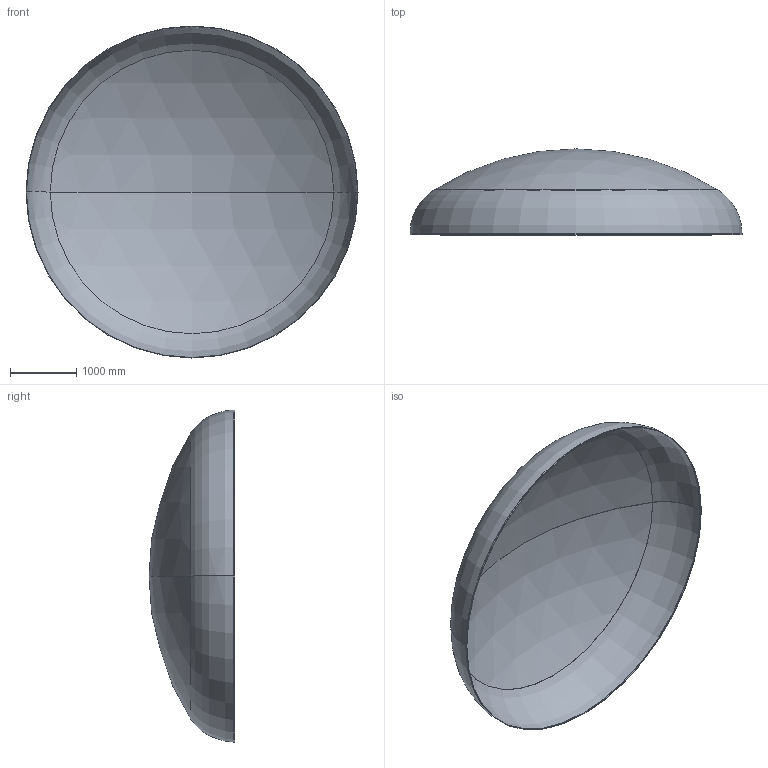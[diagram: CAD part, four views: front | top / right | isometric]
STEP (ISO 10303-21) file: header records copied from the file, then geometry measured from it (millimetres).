
FILE_DESCRIPTION (( 'STEP AP203' ), '1' );
FILE_NAME ('DIN 28013 Korbbogenform_-_Boden DIN 28013 - 5000 x 20 - I - s=6.step', '2016-07-02T00:00:40', ( '' ), ( '' ), 'SwSTEP 2.0', 'SolidWorks 2013', '' );
FILE_SCHEMA (( 'CONFIG_CONTROL_DESIGN' ));
Length unit declared in the file: millimetre
Products named in the file (1): DIN 28013 Korbbogenform_-_Boden DIN 28013 - 5000 x 20 - I - s=6
Bounding box: 5000 x 1294.57 x 5000 mm (x, y, z)
Volume: 164806829.1 mm3; surface area: 55029796.8 mm2
Topology: 1 solids, 1 shells, 13 faces, 24 edges, 14 vertices
Faces by surface type: torus 4, cylinder 4, sphere 4, plane 1
Entity records: 407 total; most frequent: DIRECTION 72, CARTESIAN_POINT 52, ORIENTED_EDGE 48, AXIS2_PLACEMENT_3D 34, EDGE_CURVE 24, CIRCLE 20, VERTEX_POINT 14, EDGE_LOOP 14
